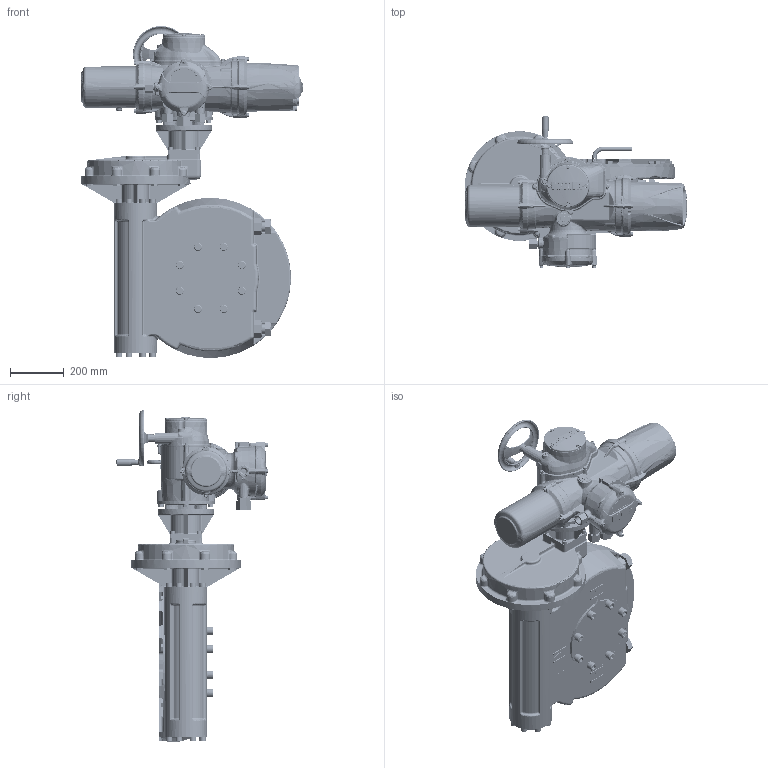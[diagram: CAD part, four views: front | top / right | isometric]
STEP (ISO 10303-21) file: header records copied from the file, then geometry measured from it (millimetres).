
FILE_DESCRIPTION( ( 'Unknown' ), '1' );
FILE_NAME( 'S:/Release/InstallationDrgs-IQmk3/Datasheets for Bishams release program/IQMK3 DATASHEETS/IQ3, IW4- 11 & 13/II3SHWIW9RLSTD-1.stp', 'Unknown', ( 'Unknown' ), ( 'Unknown' ), 'PSStep 16.0.42', 'Unknown', ' ' );
FILE_SCHEMA( ( 'AUTOMOTIVE_DESIGN { 1 0 10303 214 1 1 1 1 }' ) );
Length unit declared in the file: millimetre
Products named in the file (9): II3-01-std
Bounding box: 826.96 x 563.65 x 1235.61 mm (x, y, z)
Volume: 485490.9 mm3; surface area: 3093904.4 mm2
Topology: 85 solids, 87 shells, 7893 faces, 19457 edges, 11552 vertices
Faces by surface type: bspline 2402, plane 2322, cylinder 1227, torus 768, cone 730, sphere 280, extrusion 128, revolution 21, offset 15
Full cylindrical faces by diameter (mm): 1.152 x1, 3 x8, 4.917 x6, 5.5 x1, 6 x3, 6.2 x2, 6.45 x8, 6.47 x8, 6.5 x1, 7 x4, 7.6 x4, 8 x21, 8.1 x1, 8.2 x1, 8.5 x4, 9.7 x2, 10 x1, 10.45 x4, 10.47 x4, 11.78 x1, 12 x4, 12.1 x1, 12.444 x1, 12.5 x4, 13 x13, 13.25 x8, 14 x1, 15.281 x1, 15.5 x1, 15.84 x1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
Entity records: 687527 total; most frequent: CARTESIAN_POINT 463286, ORIENTED_EDGE 36322, DIRECTION 28886, EDGE_CURVE 18161, AXIS2_PLACEMENT_3D 11997, VERTEX_POINT 11219, EDGE_LOOP 8781, FACE_OUTER_BOUND 8229
